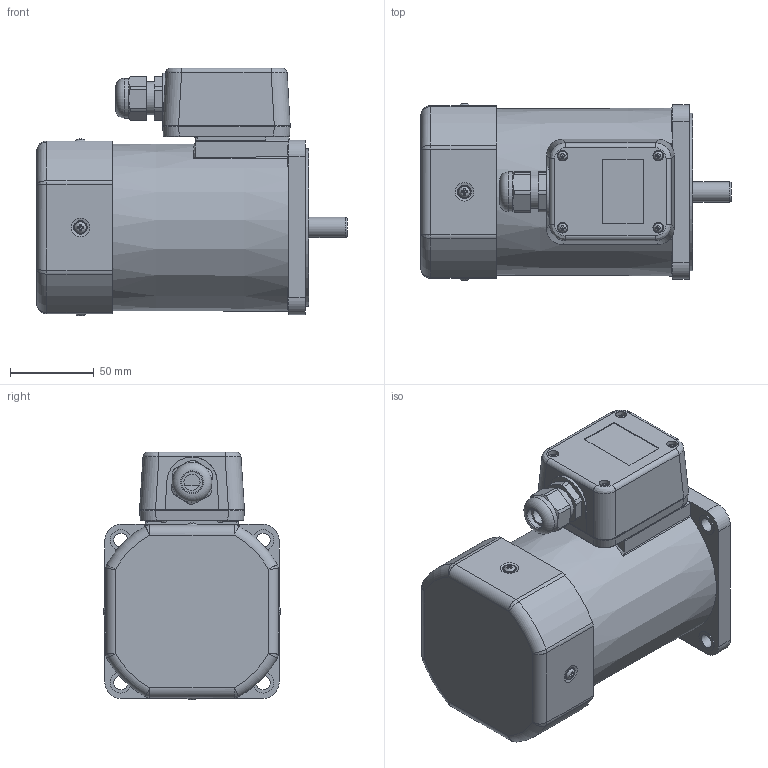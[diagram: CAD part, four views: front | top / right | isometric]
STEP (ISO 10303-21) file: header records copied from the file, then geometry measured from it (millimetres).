
FILE_DESCRIPTION((''),'2;1');
FILE_NAME('D:\yang\Yang cw\SPG 업무\2. DC MOTOR\7. DC MOTOR 브로슈어\AC MOTOR\104R각 200W\Imported Components\S10I200D_-T\S10I200D_-T.stp','2015-03-30T13:40:01',('ycw1227'),(''),'Autodesk Inventor 2013','Autodesk Inventor 2013','');
FILE_SCHEMA(('AUTOMOTIVE_DESIGN { 1 0 10303 214 1 1 1 1 }'));
Length unit declared in the file: millimetre
Products named in the file (1): 부품48
Bounding box: 185 x 105.57 x 147.78 mm (x, y, z)
Volume: 1358101.2 mm3; surface area: 137943.8 mm2
Topology: 1 solids, 10 shells, 529 faces, 1310 edges, 820 vertices
Faces by surface type: plane 258, cylinder 147, bspline 61, torus 41, cone 22
Full cylindrical faces by diameter (mm): 2.55 x2, 4 x4, 5 x4, 5.6 x4, 6.3 x4, 7 x4, 8.5 x4, 12.04 x1, 12.5 x5, 15 x1, 20 x2, 21 x1, 23.6 x1, 43 x1, 94 x1, 98 x1
Entity records: 18088 total; most frequent: CARTESIAN_POINT 6007, ORIENTED_EDGE 2310, DIRECTION 2261, EDGE_CURVE 1155, AXIS2_PLACEMENT_3D 830, VERTEX_POINT 781, EDGE_LOOP 678, VECTOR 601
